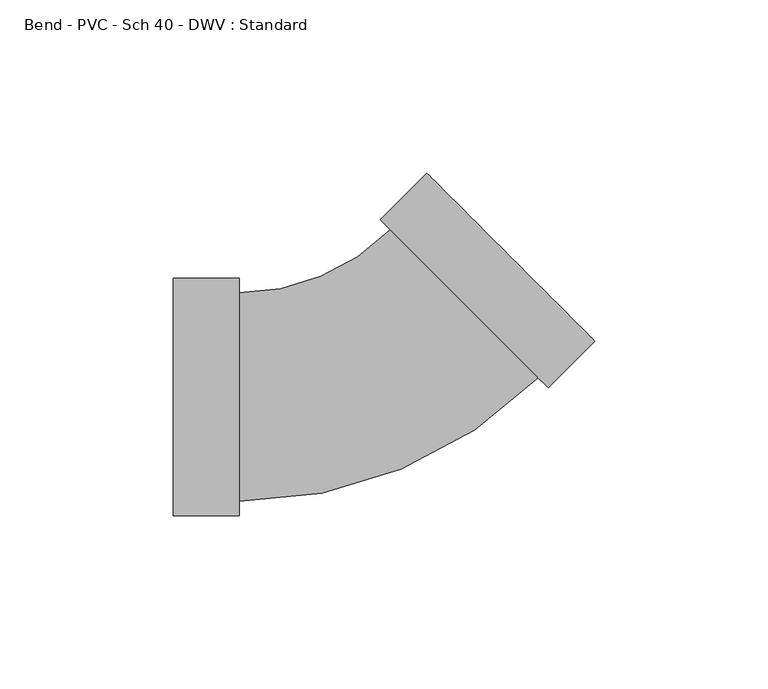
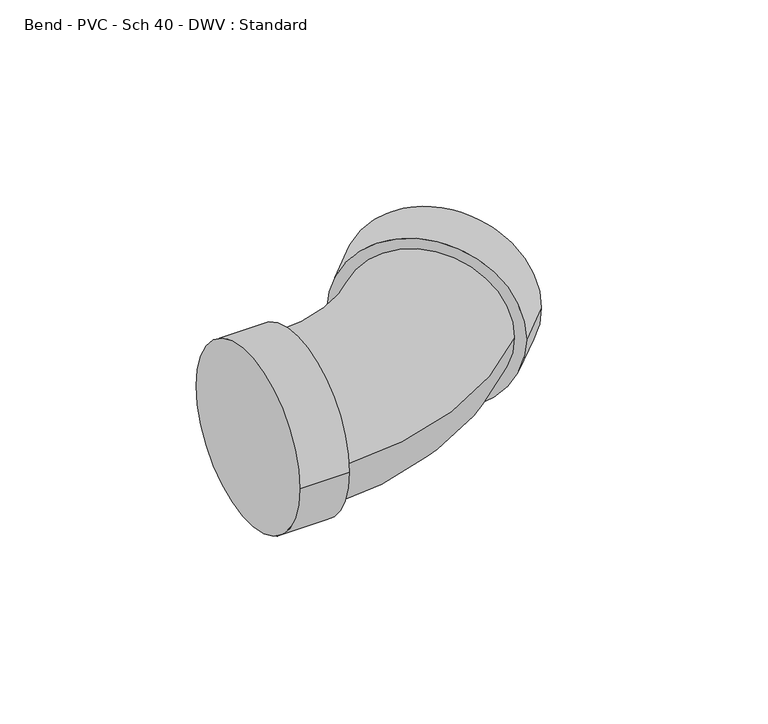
"""IFC4 building model written with IfcOpenShell, lengths in millimetres: pipe fitting geometry, Bend - PVC - Sch 40 - DWV : Standard."""

import ifcopenshell
import ifcopenshell.guid

model = None  # the IFC model being written
_history = None  # IfcOwnerHistory: only IFC2X3 demands one
_inside = {}  # id of a spatial element -> (the spatial element, [elements in it])
_under = {}  # id of a project, library or spatial element -> (it, [spatial elements below it])
_declared = {}  # id of a project -> (the project, [libraries it declares])
_typed = {}  # id of a type object -> (the type object, [elements of that type])
_made_of = {}  # id of a material, layer set ... -> (it, [elements and type objects made of it])


def new_model(schema):
    """Start an empty IFC model of exactly this schema.

    Asked for "IFC4X3", IfcOpenShell would pick the latest addendum, in which some entities
    have other attributes; the version numbers below select the first issue.
    IFC2X3 requires an IfcOwnerHistory on every rooted entity: one is made here for all.
    """
    global model, _history
    if schema == "IFC4X3":
        model = ifcopenshell.file(schema_version=(4, 3, 0, 0))
    else:
        model = ifcopenshell.file(schema=schema)
    _inside.clear()
    _under.clear()
    _declared.clear()
    _typed.clear()
    _made_of.clear()
    _history = None
    if model.schema == "IFC2X3":
        org = make("IfcOrganization", Name="unknown")
        user = make(
            "IfcPersonAndOrganization",
            ThePerson=make("IfcPerson", FamilyName="unknown"),
            TheOrganization=org,
        )
        app = make(
            "IfcApplication",
            ApplicationDeveloper=org,
            Version="unknown",
            ApplicationFullName="unknown",
            ApplicationIdentifier="unknown",
        )
        _history = make(
            "IfcOwnerHistory",
            OwningUser=user,
            OwningApplication=app,
            ChangeAction="ADDED",
            CreationDate=0,
        )
    return model


def make(cls, **values):
    """One entity of the class cls with the attributes given. An attribute that is None is left unset."""
    return model.create_entity(
        cls, **{name: value for name, value in values.items() if value is not None}
    )


def rooted(cls, **values):
    """An entity with a GlobalId (a new one), such as an element, a storey or a relation."""
    return make(cls, GlobalId=ifcopenshell.guid.new(), OwnerHistory=_history, **values)


def si_unit(unit_type, name, prefix=None):
    """IfcSIUnit, for example si_unit("LENGTHUNIT", "METRE", prefix="MILLI")."""
    return make("IfcSIUnit", UnitType=unit_type, Prefix=prefix, Name=name)


def assignment(units):
    """IfcUnitAssignment: the units of a project."""
    return None if units is None else make("IfcUnitAssignment", Units=units)


def point(xyz):
    """IfcCartesianPoint."""
    return None if xyz is None else make("IfcCartesianPoint", Coordinates=xyz)


def direction(xyz):
    """IfcDirection."""
    return None if xyz is None else make("IfcDirection", DirectionRatios=xyz)


def frame(location, z_axis=None, x_axis=None):
    """IfcAxis2Placement3D, a coordinate frame: its origin and axes. An axis left out is left unset."""
    return make(
        "IfcAxis2Placement3D",
        Location=point(location),
        Axis=direction(z_axis),
        RefDirection=direction(x_axis),
    )


def origin():
    """The frame at (0, 0, 0) with its axes left unset."""
    return frame((0.0, 0.0, 0.0))


def place(relative_to, where):
    """IfcLocalPlacement: puts the frame where relative to a parent placement (None: the world)."""
    return make(
        "IfcLocalPlacement", PlacementRelTo=relative_to, RelativePlacement=where
    )


def context(
    kind, dimensions, precision=None, world=None, true_north=None, identifier=None
):
    """IfcGeometricRepresentationContext, for example the 3D "Model" context."""
    return make(
        "IfcGeometricRepresentationContext",
        ContextIdentifier=identifier,
        ContextType=kind,
        CoordinateSpaceDimension=dimensions,
        Precision=precision,
        WorldCoordinateSystem=world,
        TrueNorth=true_north,
    )


def project(units=None, contexts=None):
    """IfcProject with its units and contexts."""
    return rooted(
        "IfcProject",
        Name="project",
        RepresentationContexts=contexts,
        UnitsInContext=assignment(units),
    )


def spatial(cls, under=None, at=None, **own):
    """A site, building, storey or space (cls), placed at a placement, below another one or the project."""
    s = rooted(cls, ObjectPlacement=at, **own)
    if under is not None:
        _under.setdefault(under.id(), (under, []))[1].append(s)
    return s


def circle_curve(where, radius):
    """IfcCircle in the frame where."""
    return make("IfcCircle", Position=where, Radius=radius)


def ellipse_curve(where, semi_axis1, semi_axis2):
    """IfcEllipse in the frame where."""
    return make(
        "IfcEllipse", Position=where, SemiAxis1=semi_axis1, SemiAxis2=semi_axis2
    )


def trimmed(basis, trim1, trim2, sense, master):
    """IfcTrimmedCurve: the piece of a basis curve between two trims."""
    return make(
        "IfcTrimmedCurve",
        BasisCurve=basis,
        Trim1=trim1,
        Trim2=trim2,
        SenseAgreement=sense,
        MasterRepresentation=master,
    )


def shape(context_of_items, identifier, shape_type, items):
    """IfcShapeRepresentation: the items that make up one representation, for example the "Body"."""
    return make(
        "IfcShapeRepresentation",
        ContextOfItems=context_of_items,
        RepresentationIdentifier=identifier,
        RepresentationType=shape_type,
        Items=items,
    )


def source(mapping_origin, context_of_items, identifier, shape_type, items):
    """IfcRepresentationMap: a shape defined once, which mapped items show again and again."""
    return make(
        "IfcRepresentationMap",
        MappingOrigin=mapping_origin,
        MappedRepresentation=shape(context_of_items, identifier, shape_type, items),
    )


def transform(
    local_origin,
    x_axis=None,
    y_axis=None,
    z_axis=None,
    scale=None,
    scale2=None,
    scale3=None,
    uniform=True,
):
    """IfcCartesianTransformationOperator3D, or its non-uniform kind. x_axis, y_axis, z_axis: its Axis1, 2, 3."""
    if uniform:
        return make(
            "IfcCartesianTransformationOperator3D",
            Axis1=direction(x_axis),
            Axis2=direction(y_axis),
            LocalOrigin=point(local_origin),
            Scale=scale,
            Axis3=direction(z_axis),
        )
    return make(
        "IfcCartesianTransformationOperator3DnonUniform",
        Axis1=direction(x_axis),
        Axis2=direction(y_axis),
        LocalOrigin=point(local_origin),
        Scale=scale,
        Axis3=direction(z_axis),
        Scale2=scale2,
        Scale3=scale3,
    )


def mapped(mapping_source, mapping_target):
    """IfcMappedItem: shows the shape of a source again, moved by a transform."""
    return make(
        "IfcMappedItem", MappingSource=mapping_source, MappingTarget=mapping_target
    )


def made_of(thing, what):
    """Note that an element or type object is made of a material, layer set ...; save() writes the relation."""
    if what is not None:
        _made_of.setdefault(what.id(), (what, []))[1].append(thing)
    return thing


def element(
    cls,
    number,
    at=None,
    inside=None,
    cuts=None,
    type_object=None,
    material=None,
    context=None,
    identifier="Body",
    shape_type=None,
    held_by="IfcProductDefinitionShape",
    body=None,
    shapes=None,
    **own,
):
    """One element of the class cls, such as IfcWall. Its Tag is "e" and its number.

    at: its placement. inside: the storey or other place that contains it. cuts: it is an
    opening in that element (IfcRelVoidsElement). A single representation is given by context,
    identifier, shape_type and body (its items); several are given by shapes. held_by: the class
    of the entity that holds the representations. save() writes the other relations.
    """
    e = rooted(cls, Tag="e%d" % number, ObjectPlacement=at, **own)
    if body is not None:
        shapes = [shape(context, identifier, shape_type, body)]
    if shapes is not None:
        e.Representation = make(held_by, Representations=shapes)
    if inside is not None:
        _inside.setdefault(inside.id(), (inside, []))[1].append(e)
    if cuts is not None:
        rooted(
            "IfcRelVoidsElement", RelatingBuildingElement=cuts, RelatedOpeningElement=e
        )
    if type_object is not None:
        _typed.setdefault(type_object.id(), (type_object, []))[1].append(e)
    return made_of(e, material)


def aggregate(whole, parts):
    """IfcRelAggregates: a whole, such as a stair, and the parts it consists of."""
    return rooted("IfcRelAggregates", RelatingObject=whole, RelatedObjects=parts)


def save(model, path):
    """Write the relations noted so far, then the file.

    IfcRelAggregates (storeys below a building ...), IfcRelContainedInSpatialStructure (elements
    in a storey), IfcRelDefinesByType, IfcRelAssociatesMaterial and IfcRelDeclares: one each for
    every whole, place, type object, material and project.
    """
    for whole, parts in _under.values():
        aggregate(whole, parts)
    for where, things in _inside.values():
        rooted(
            "IfcRelContainedInSpatialStructure",
            RelatedElements=things,
            RelatingStructure=where,
        )
    for kind, things in _typed.values():
        rooted("IfcRelDefinesByType", RelatedObjects=things, RelatingType=kind)
    for what, things in _made_of.values():
        rooted("IfcRelAssociatesMaterial", RelatedObjects=things, RelatingMaterial=what)
    for by, libraries in _declared.values():
        rooted("IfcRelDeclares", RelatingContext=by, RelatedDefinitions=libraries)
    model.write(path)


def plane_surface(at):
    """IfcPlane: the flat surface through the origin of the frame at, square to its z axis."""
    return make("IfcPlane", Position=at)


def cylinder_surface(at, radius):
    """IfcCylindricalSurface: all points at the distance radius from the z axis of the frame at."""
    return make("IfcCylindricalSurface", Position=at, Radius=radius)


def revolved_surface(curve, axis_point, axis_direction):
    """IfcSurfaceOfRevolution: the curve turned about the line through axis_point along axis_direction."""
    return make(
        "IfcSurfaceOfRevolution",
        SweptCurve=make("IfcArbitraryOpenProfileDef", ProfileType="CURVE", Curve=curve),
        AxisPosition=make("IfcAxis1Placement", Location=point(axis_point), Axis=direction(axis_direction)),
    )


def advanced_brep(points, edges, surfaces, faces):
    """IfcAdvancedBrep: a solid bounded by faces that lie on surfaces and meet in shared edges.

    An edge is (start, end): straight between two places in points (the first is 0);
    or (start, end, curve); or (start, end, curve, False) where it runs against its curve.
    A face is (place in surfaces, loops), or (place, loops, False) where it looks against
    its surface's normal. A loop lists edges by number (the first is 1), with a minus sign
    where the edge is run from its end to its start. The first loop is the outer one.
    """
    corners = [point(p) for p in points]
    vertices = [make("IfcVertexPoint", VertexGeometry=c) for c in corners]
    made = []
    for start, end, *more in edges:
        made.append(
            make(
                "IfcEdgeCurve",
                EdgeStart=vertices[start],
                EdgeEnd=vertices[end],
                EdgeGeometry=more[0] if more else make("IfcPolyline", Points=[corners[start], corners[end]]),
                SameSense=more[1] if len(more) > 1 else True,
            )
        )
    hull = []
    for where, loops, *sense in faces:
        bounds = []
        for j, loop in enumerate(loops):
            ring = [make("IfcOrientedEdge", EdgeElement=made[abs(k) - 1], Orientation=k > 0) for k in loop]
            bounds.append(
                make(
                    "IfcFaceOuterBound" if j == 0 else "IfcFaceBound",
                    Bound=make("IfcEdgeLoop", EdgeList=ring),
                    Orientation=True,
                )
            )
        hull.append(make("IfcAdvancedFace", Bounds=bounds, FaceSurface=surfaces[where], SameSense=sense[0] if sense else True))
    return make("IfcAdvancedBrep", Outer=make("IfcClosedShell", CfsFaces=hull))


def bend_pvc_sch_40_dwv_standard_2ee4a350(model_context):
    return source(origin(), model_context, "Body", "AdvancedBrep", [
        advanced_brep(
        [(-57.15, -34.3154, 0.0), (-57.15, 34.3154, 0.0), (-38.1, -34.3154, 0.0), (-38.1, 34.3154, 0.0), (-38.1, -30.1625, 0.0), (-38.1, 30.1625, 0.0), (5.6147365, 48.2686352, 0.0), (48.2691181, 5.6105836, 0.0), (51.2055355, 2.6739135, 0.0), (2.6783191, 51.2053052, 0.0), (64.6764991, 16.1437182, 0.0), (16.1492828, 64.6751099, 0.0)],
        [
            (0, 1, circle_curve(frame((-57.15, 0.0, 0.0), z_axis=(-1.0, 0.0, 0.0), x_axis=(0.0, 1.0, 0.0)), 34.3154)),
            (1, 0, circle_curve(frame((-57.15, 0.0, 0.0), z_axis=(-1.0, 0.0, 0.0), x_axis=(0.0, 1.0, 0.0)), 34.3154)),
            (2, 3, circle_curve(frame((-38.1, 0.0, 0.0), z_axis=(1.0, 0.0, 0.0), x_axis=(0.0, 1.0, 0.0)), 34.3154)),
            (3, 2, circle_curve(frame((-38.1, 0.0, 0.0), z_axis=(1.0, 0.0, 0.0), x_axis=(0.0, 1.0, 0.0)), 34.3154)),
            (4, 5, circle_curve(frame((-38.1, 0.0, 0.0), z_axis=(-1.0, 0.0, 0.0), x_axis=(0.0, 1.0, 0.0)), 30.1625)),
            (5, 4, circle_curve(frame((-38.1, 0.0, 0.0), z_axis=(-1.0, 0.0, 0.0), x_axis=(0.0, 1.0, 0.0)), 30.1625)),
            (0, 2),
            (3, 1),
            (6, 5, circle_curve(frame((-38.1, 91.9871329, 0.0), z_axis=(0.0, 0.0, -1.0), x_axis=(0.0, -1.0, 0.0)), 61.8246329)),
            (4, 7, circle_curve(frame((-38.1, 91.9871329, 0.0), z_axis=(0.0, 0.0, 1.0), x_axis=(0.0, -1.0, 0.0)), 122.1496329)),
            (7, 6, circle_curve(frame((26.9419273, 26.9396094, 0.0), z_axis=(-0.7071371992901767, -0.7070763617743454, 0.0), x_axis=(-0.7070763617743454, 0.7071371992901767, 0.0)), 30.1625)),
            (6, 7, circle_curve(frame((26.9419273, 26.9396094, 0.0), z_axis=(-0.7071371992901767, -0.7070763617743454, 0.0), x_axis=(-0.7070763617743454, 0.7071371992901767, 0.0)), 30.1625)),
            (8, 9, circle_curve(frame((26.9419273, 26.9396094, 0.0), z_axis=(-0.7071371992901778, -0.7070763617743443, 0.0), x_axis=(-0.7070763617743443, 0.7071371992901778, 0.0)), 34.3154)),
            (9, 8, circle_curve(frame((26.9419273, 26.9396094, 0.0), z_axis=(-0.7071371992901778, -0.7070763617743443, 0.0), x_axis=(-0.7070763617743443, 0.7071371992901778, 0.0)), 34.3154)),
            (10, 11, circle_curve(frame((40.4128909, 40.4094141, 0.0), z_axis=(0.7071371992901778, 0.7070763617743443, 0.0), x_axis=(-0.7070763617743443, 0.7071371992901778, 0.0)), 34.3154)),
            (11, 10, circle_curve(frame((40.4128909, 40.4094141, 0.0), z_axis=(0.7071371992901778, 0.7070763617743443, 0.0), x_axis=(-0.7070763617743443, 0.7071371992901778, 0.0)), 34.3154)),
            (8, 10),
            (11, 9),
        ],
        [
            plane_surface(frame((-57.15, 0.0, 0.0), z_axis=(-1.0, 0.0, 0.0), x_axis=(0.0, 0.0, 1.0))),
            plane_surface(frame((-38.1, 0.0, 0.0), z_axis=(1.0, 0.0, 0.0), x_axis=(0.0, 0.0, 1.0))),
            cylinder_surface(frame((-57.15, 0.0, 0.0), z_axis=(-1.0, 0.0, 0.0), x_axis=(0.0, 1.0, 0.0)), 34.3154),
            revolved_surface(trimmed(ellipse_curve(frame((-38.1, 0.0, 0.0), z_axis=(-1.0, 0.0, 0.0), x_axis=(0.0, 1.0, 0.0)), 30.1625, 30.1625), [point((-38.1, -30.1625, 0.0))], [point((-38.1, 30.1625, 0.0))], True, "CARTESIAN"), (-38.1, 91.9871329, 0.0), (0.0, 0.0, 1.0)),
            revolved_surface(trimmed(ellipse_curve(frame((-38.1, 0.0, 0.0), z_axis=(-1.0, 0.0, 0.0), x_axis=(0.0, 1.0, 0.0)), 30.1625, 30.1625), [point((-38.1, 30.1625, 0.0))], [point((-38.1, -30.1625, 0.0))], True, "CARTESIAN"), (-38.1, 91.9871329, 0.0), (0.0, 0.0, 1.0)),
            plane_surface(frame((26.9419273, 26.9396094, 0.0), z_axis=(-0.7071371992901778, -0.7070763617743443, 0.0), x_axis=(0.0, 0.0, 1.0))),
            plane_surface(frame((40.4128909, 40.4094141, 0.0), z_axis=(0.7071371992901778, 0.7070763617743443, 0.0), x_axis=(0.0, 0.0, 1.0))),
            cylinder_surface(frame((26.9419273, 26.9396094, 0.0), z_axis=(-0.7071371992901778, -0.7070763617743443, 0.0), x_axis=(-0.7070763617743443, 0.7071371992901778, 0.0)), 34.3154),
        ],
        [
            (0, [[1, 2]]),
            (1, [[3, 4], [5, 6]]),
            (2, [[-1, 7, -4, 8]]),
            (2, [[-2, -8, -3, -7]]),
            (3, [[9, -5, 10, 11]]),
            (4, [[-9, 12, -10, -6]]),
            (5, [[13, 14], [-11, -12]]),
            (6, [[15, 16]]),
            (7, [[-13, 17, -16, 18]]),
            (7, [[-14, -18, -15, -17]]),
        ],
    ),
    ])


if __name__ == "__main__":
    model = new_model("IFC4")
    model_context = context("Model", 3, world=origin())
    ifc_project = project(units=[si_unit("LENGTHUNIT", "METRE", prefix="MILLI")], contexts=[model_context])
    site = spatial("IfcSite", under=ifc_project)
    building = spatial("IfcBuilding", under=site)
    placement = place(None, origin())
    bend_pvc_sch_40_dwv_standard_shape = bend_pvc_sch_40_dwv_standard_2ee4a350(model_context)
    element("IfcPipeFitting", 1, ObjectType="Bend - PVC - Sch 40 - DWV : Standard", at=placement, inside=building, context=model_context, shape_type="MappedRepresentation", body=[
        mapped(bend_pvc_sch_40_dwv_standard_shape, transform((0.0, 0.0, 0.0), x_axis=(1.0, 0.0, 0.0), y_axis=(0.0, 1.0, 0.0), z_axis=(0.0, 0.0, 1.0))),
    ])
    save(model, "model.ifc")
